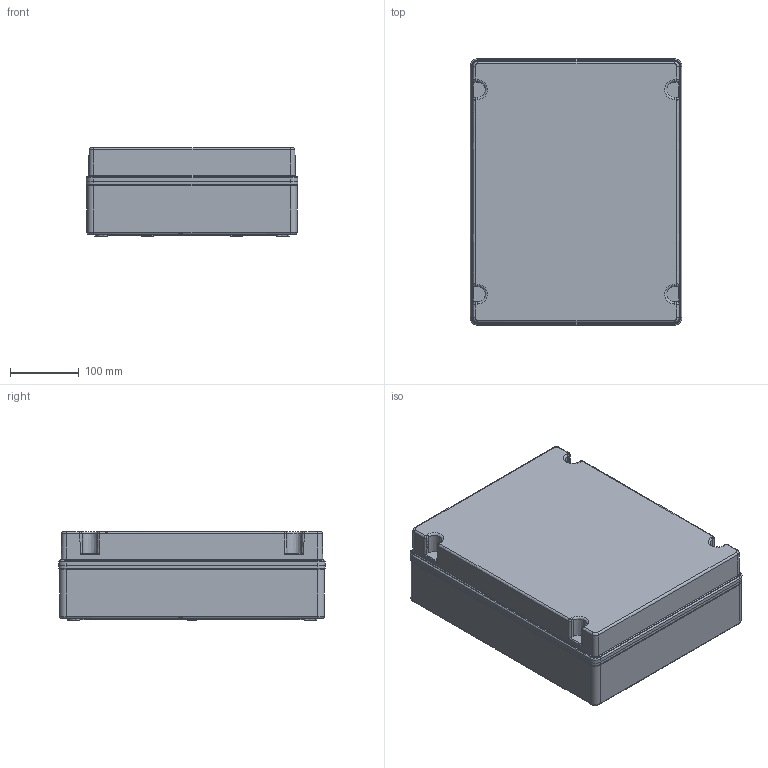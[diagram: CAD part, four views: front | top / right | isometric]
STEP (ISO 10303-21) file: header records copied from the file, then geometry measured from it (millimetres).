
FILE_DESCRIPTION(/* description */ (''),/* implementation_level */ '2;1');
FILE_NAME(/* name */ '4003381.stp',/* time_stamp */ '2016-09-22T14:16:52+02:00',/* author */ (''),/* organization */ (''),/* preprocessor_version */ 'ST-DEVELOPER v16',/* originating_system */ 'SIEMENS PLM Software NX 11.0',/* authorisation */ '');
FILE_SCHEMA (('AUTOMOTIVE_DESIGN { 1 0 10303 214 3 1 1 1 }'));
Length unit declared in the file: millimetre
Products named in the file (1): 4003381_LINKEDEXT_jt
Bounding box: 308.4 x 388.4 x 128.8 mm (x, y, z)
Surface area: 454537.4 mm2 (no closed solid volume)
Topology: 0 solids, 23 shells, 288 faces, 1014 edges, 710 vertices
Faces by surface type: plane 102, cylinder 90, bspline 68, cone 16, torus 12
Full cylindrical faces by diameter (mm): 5.9 x12
Entity records: 15967 total; most frequent: CARTESIAN_POINT 7929, ORIENTED_EDGE 1530, DIRECTION 1452, EDGE_CURVE 982, VERTEX_POINT 694, AXIS2_PLACEMENT_3D 527, LINE 398, VECTOR 398
